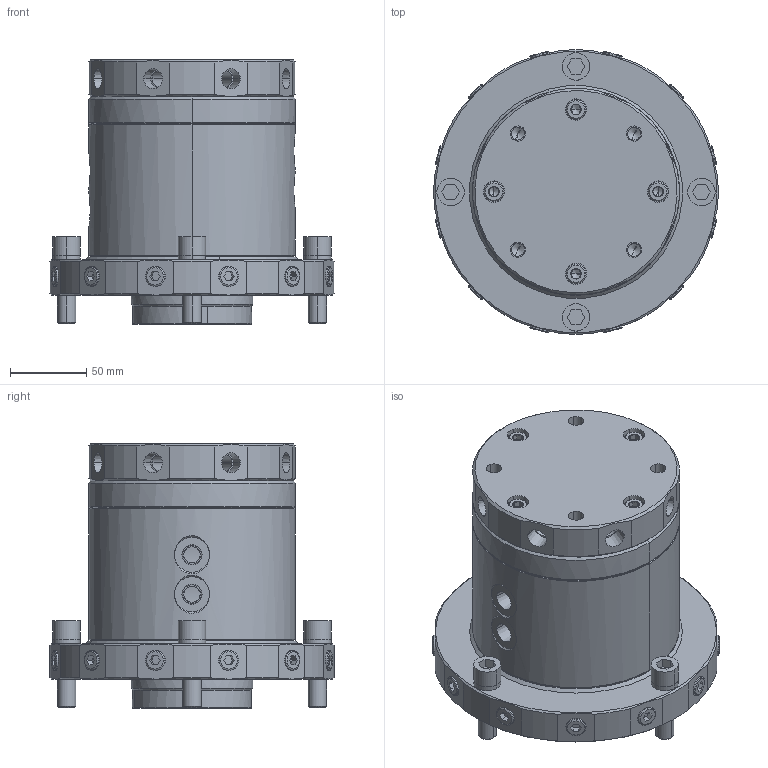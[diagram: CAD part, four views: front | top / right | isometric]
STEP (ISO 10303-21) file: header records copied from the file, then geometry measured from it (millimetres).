
FILE_DESCRIPTION((' '),'2;1');
FILE_NAME( 'TMD012-S-G.x_t.stp', '2024-09-03T08:17:44', (' '), ('--- Datakit www.datakit.com---'), ' Datakit CrossCadWare V2024.1 Dec 21 2023', 'Mastercam 2025', ' ');
FILE_SCHEMA(('AUTOMOTIVE_DESIGN { 1 0 10303 214 1 1 1 1 }'));
Length unit declared in the file: millimetre
Products named in the file (1): TMD012-S-G
Bounding box: 186.82 x 186.82 x 174 mm (x, y, z)
Volume: 2570278.7 mm3; surface area: 229484.4 mm2
Topology: 34 solids, 34 shells, 986 faces, 2214 edges, 1332 vertices
Faces by surface type: cylinder 318, plane 318, cone 294, torus 56
Entity records: 30208 total; most frequent: CARTESIAN_POINT 6954, DIRECTION 4976, ORIENTED_EDGE 4340, EDGE_CURVE 2170, AXIS2_PLACEMENT_3D 2000, VERTEX_POINT 1332, EDGE_LOOP 1122, CIRCLE 997
